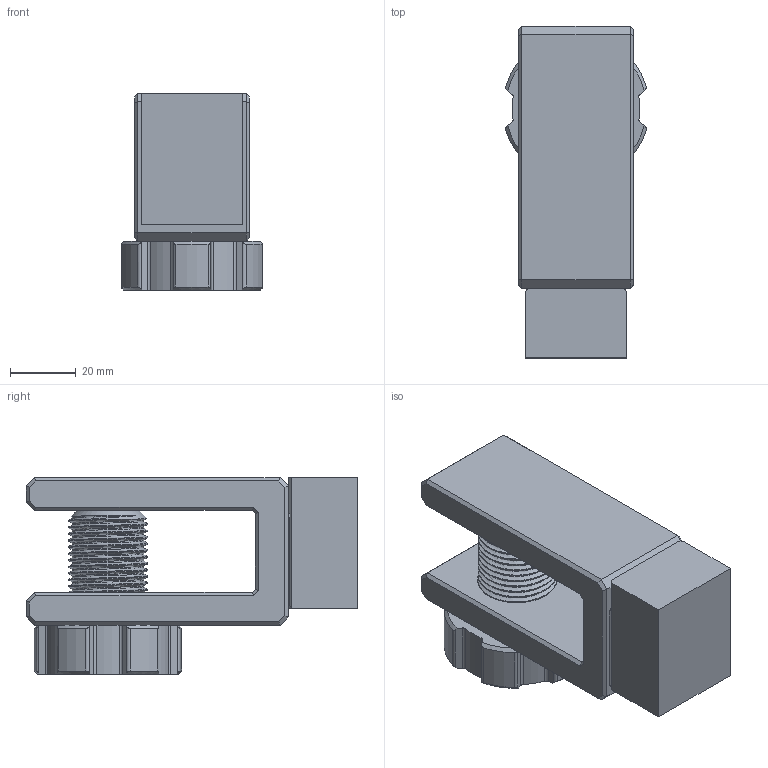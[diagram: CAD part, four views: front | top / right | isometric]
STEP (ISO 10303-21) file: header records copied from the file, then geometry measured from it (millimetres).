
FILE_DESCRIPTION(/* description */ (''),/* implementation_level */ '2;1');
FILE_NAME(/* name */ 'Modular Clamp 25 mm - slim.step',/* time_stamp */ '2023-08-25T08:32:17+02:00',/* author */ (''),/* organization */ (''),/* preprocessor_version */ 'ST-DEVELOPER v20',/* originating_system */ 'Autodesk Translation Framework v12.9.0.99',/* authorisation */ '');
FILE_SCHEMA (('AUTOMOTIVE_DESIGN { 1 0 10303 214 3 1 1 }'));
Length unit declared in the file: millimetre
Products named in the file (1): Modular Clamp V1 - slim
Bounding box: 43.03 x 101.26 x 60 mm (x, y, z)
Volume: 120511.3 mm3; surface area: 34631.5 mm2
Topology: 3 solids, 3 shells, 240 faces, 643 edges, 410 vertices
Faces by surface type: plane 114, cylinder 88, cone 23, bspline 15
Full cylindrical faces by diameter (mm): 21.929 x16, 24.222 x16
Entity records: 13703 total; most frequent: CARTESIAN_POINT 8030, ORIENTED_EDGE 1286, DIRECTION 1008, EDGE_CURVE 643, VERTEX_POINT 410, LINE 380, VECTOR 380, AXIS2_PLACEMENT_3D 314
